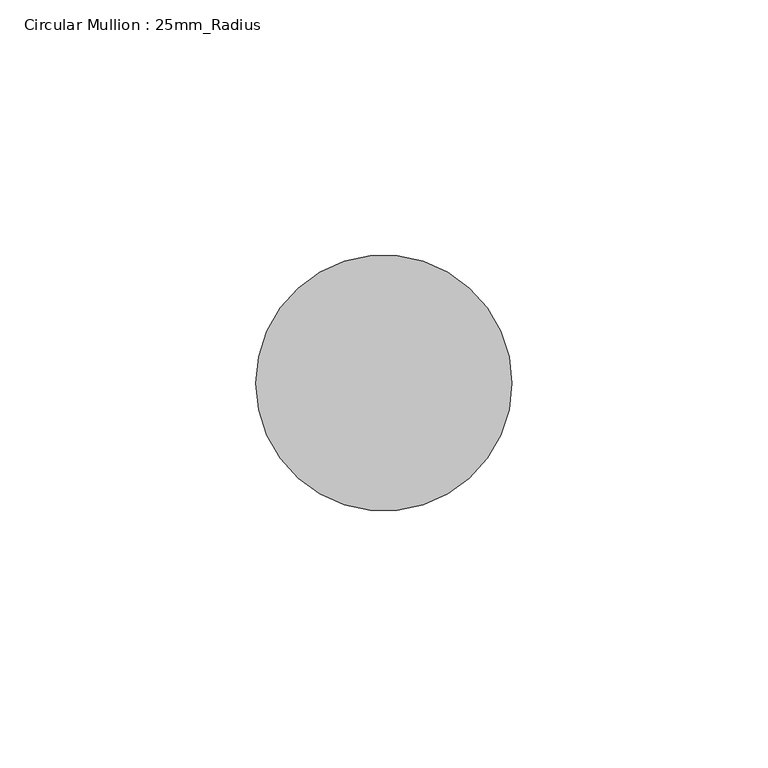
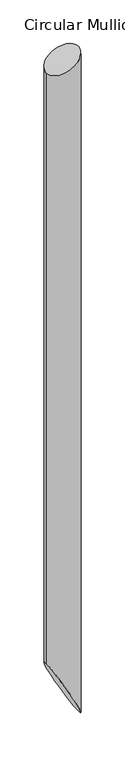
"""IFC4 building model written with IfcOpenShell, lengths in millimetres: member geometry, Circular Mullion : 25mm_Radius."""

from ifc_helpers import new_model, si_unit, frame, origin, place, context, project, spatial, ellipse_curve, source, transform, mapped, element, save
from ifc_brep_helpers import plane_surface, cylinder_surface, advanced_brep


def circular_mullion_25mm_radius_5c360ee4(model_context):
    return source(origin(), model_context, "Body", "AdvancedBrep", [
        advanced_brep(
        [(-50.0, 0.0, -26.3413064), (0.0, 0.0, 0.0), (0.0, 0.0, -1091.2435154), (-50.0, 0.0, -996.3355424)],
        [
            (0, 1, ellipse_curve(frame((-25.0, 0.0, -13.1706532), z_axis=(0.46609996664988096, 0.0, -0.8847320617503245), x_axis=(0.8847320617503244, 0.0, 0.4660999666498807)), 28.2571426, 25.0)),
            (1, 2),
            (2, 3, ellipse_curve(frame((-25.0, 0.0, -1043.7895289), z_axis=(0.8847320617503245, 0.0, 0.466099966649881), x_axis=(-0.46609996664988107, 0.0, 0.8847320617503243)), 53.6365625, 25.0)),
            (3, 0),
            (1, 0, ellipse_curve(frame((-25.0, 0.0, -13.1706532), z_axis=(0.46609996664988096, 0.0, -0.8847320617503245), x_axis=(0.8847320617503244, 0.0, 0.4660999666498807)), 28.2571426, 25.0)),
            (3, 2, ellipse_curve(frame((-25.0, 0.0, -1043.7895289), z_axis=(0.8847320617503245, 0.0, 0.466099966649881), x_axis=(-0.46609996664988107, 0.0, 0.8847320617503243)), 53.6365625, 25.0)),
        ],
        [
            cylinder_surface(frame((-25.0, 0.0, 0.0), z_axis=(0.0, 0.0, 1.0), x_axis=(1.0, 0.0, 0.0)), 25.0),
            plane_surface(frame((0.0, -304.8, 0.0), z_axis=(-0.46609996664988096, 0.0, 0.8847320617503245), x_axis=(-0.8847320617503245, 0.0, -0.46609996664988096))),
            plane_surface(frame((0.0, -304.8, -1091.2435154), z_axis=(-0.8847320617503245, 0.0, -0.466099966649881), x_axis=(-0.466099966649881, 0.0, 0.8847320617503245))),
        ],
        [
            (0, [[1, 2, 3, 4]]),
            (0, [[5, -4, 6, -2]]),
            (1, [[-1, -5]]),
            (2, [[-6, -3]]),
        ],
    ),
    ])


if __name__ == "__main__":
    model = new_model("IFC4")
    model_context = context("Model", 3, world=origin())
    ifc_project = project(units=[si_unit("LENGTHUNIT", "METRE", prefix="MILLI")], contexts=[model_context])
    site = spatial("IfcSite", under=ifc_project)
    building = spatial("IfcBuilding", under=site)
    placement = place(None, origin())
    circular_mullion_25mm_radius_shape = circular_mullion_25mm_radius_5c360ee4(model_context)
    element("IfcMember", 1, ObjectType="Circular Mullion : 25mm_Radius", at=placement, inside=building, context=model_context, shape_type="MappedRepresentation", body=[
        mapped(circular_mullion_25mm_radius_shape, transform((0.0, 0.0, 0.0), x_axis=(1.0, 0.0, 0.0), y_axis=(0.0, 1.0, 0.0), z_axis=(0.0, 0.0, 1.0))),
    ])
    save(model, "model.ifc")
